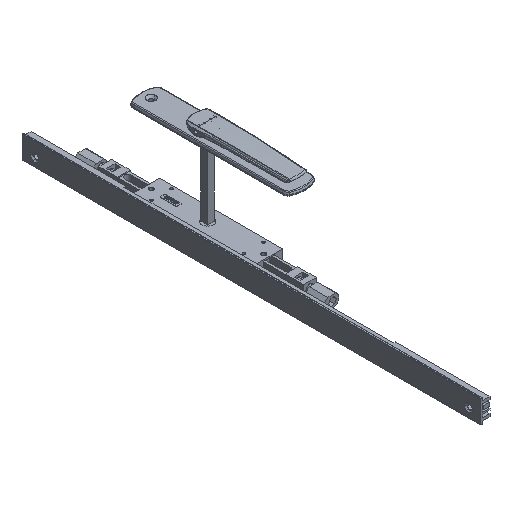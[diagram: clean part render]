
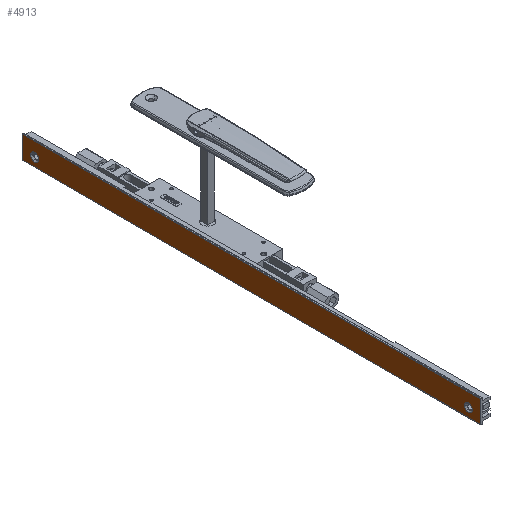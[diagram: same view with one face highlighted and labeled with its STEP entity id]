
A CAD part, isometric view. The second image highlights one B-rep face of the part: STEP entity #4913.
In plain terms, the highlighted planar face has unit normal (-1, 0, 0) as drawn and (0, 1, 0) by its records, which use the part's own axes.
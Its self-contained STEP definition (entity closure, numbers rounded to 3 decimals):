
#42 = VERTEX_POINT ( 'NONE', #28463 ) ;
#154 = DIRECTION ( 'NONE',  ( -1., 0., 0. ) ) ;
#907 = CARTESIAN_POINT ( 'NONE',  ( 11.8, 12.4, 529. ) ) ;
#1183 = ORIENTED_EDGE ( 'NONE', *, *, #7446, .T. ) ;
#1953 = DIRECTION ( 'NONE',  ( 0., 1., 0. ) ) ;
#2097 = CARTESIAN_POINT ( 'NONE',  ( 20.8, 12.4, 544. ) ) ;
#2159 = CARTESIAN_POINT ( 'NONE',  ( -4.4, 12.4, 0. ) ) ;
#2232 = ORIENTED_EDGE ( 'NONE', *, *, #12442, .F. ) ;
#4413 = VERTEX_POINT ( 'NONE', #25428 ) ;
#4913 = ADVANCED_FACE ( 'NONE', ( #30693, #26301, #9494 ), #19054, .F. ) ;
#5756 = DIRECTION ( 'NONE',  ( 0., 1., 0. ) ) ;
#6285 = DIRECTION ( 'NONE',  ( 0., 1., 0. ) ) ;
#6688 = DIRECTION ( 'NONE',  ( 0., 0., 1. ) ) ;
#6836 = EDGE_CURVE ( 'NONE', #17406, #42, #20732, .T. ) ;
#6898 = ORIENTED_EDGE ( 'NONE', *, *, #6836, .F. ) ;
#7446 = EDGE_CURVE ( 'NONE', #4413, #29605, #26039, .T. ) ;
#9479 = CIRCLE ( 'NONE', #27004, 4.889 ) ;
#9494 = FACE_OUTER_BOUND ( 'NONE', #29536, .T. ) ;
#10035 = VECTOR ( 'NONE', #29203, 1000. ) ;
#10246 = ORIENTED_EDGE ( 'NONE', *, *, #27383, .T. ) ;
#11005 = CARTESIAN_POINT ( 'NONE',  ( 22., 12.4, 544. ) ) ;
#11247 = CARTESIAN_POINT ( 'NONE',  ( 11.8, 12.4, 529. ) ) ;
#11557 = CIRCLE ( 'NONE', #14585, 4.89 ) ;
#11775 = DIRECTION ( 'NONE',  ( 0., 0., 1. ) ) ;
#11780 = AXIS2_PLACEMENT_3D ( 'NONE', #11247, #1953, #20792 ) ;
#11969 = ORIENTED_EDGE ( 'NONE', *, *, #19567, .F. ) ;
#12442 = EDGE_CURVE ( 'NONE', #27673, #16604, #16724, .T. ) ;
#12851 = CARTESIAN_POINT ( 'NONE',  ( 20.8, 12.4, 0. ) ) ;
#13371 = ORIENTED_EDGE ( 'NONE', *, *, #23821, .F. ) ;
#13752 = ORIENTED_EDGE ( 'NONE', *, *, #16573, .F. ) ;
#14135 = VECTOR ( 'NONE', #154, 1000. ) ;
#14433 = CARTESIAN_POINT ( 'NONE',  ( 11.8, 12.4, 15. ) ) ;
#14585 = AXIS2_PLACEMENT_3D ( 'NONE', #30922, #16778, #26370 ) ;
#15508 = EDGE_LOOP ( 'NONE', ( #11969, #6898 ) ) ;
#16573 = EDGE_CURVE ( 'NONE', #23276, #23169, #20764, .T. ) ;
#16604 = VERTEX_POINT ( 'NONE', #11005 ) ;
#16724 = LINE ( 'NONE', #28180, #24450 ) ;
#16778 = DIRECTION ( 'NONE',  ( 0., 1., 0. ) ) ;
#17406 = VERTEX_POINT ( 'NONE', #24707 ) ;
#18199 = DIRECTION ( 'NONE',  ( 0., 0., 1. ) ) ;
#18587 = CARTESIAN_POINT ( 'NONE',  ( 11.8, 12.4, 10.111 ) ) ;
#19054 = PLANE ( 'NONE',  #27809 ) ;
#19567 = EDGE_CURVE ( 'NONE', #42, #17406, #9479, .T. ) ;
#19618 = CARTESIAN_POINT ( 'NONE',  ( 20.8, 12.4, 544. ) ) ;
#19622 = CARTESIAN_POINT ( 'NONE',  ( 11.8, 12.4, 19.89 ) ) ;
#20732 = CIRCLE ( 'NONE', #11780, 4.889 ) ;
#20764 = CIRCLE ( 'NONE', #21536, 4.89 ) ;
#20792 = DIRECTION ( 'NONE',  ( 0., 0., 1. ) ) ;
#21100 = DIRECTION ( 'NONE',  ( 0., -1., 0. ) ) ;
#21536 = AXIS2_PLACEMENT_3D ( 'NONE', #14433, #6285, #18199 ) ;
#21947 = LINE ( 'NONE', #12851, #14135 ) ;
#23169 = VERTEX_POINT ( 'NONE', #18587 ) ;
#23276 = VERTEX_POINT ( 'NONE', #19622 ) ;
#23821 = EDGE_CURVE ( 'NONE', #16604, #29605, #26991, .T. ) ;
#24108 = EDGE_CURVE ( 'NONE', #23169, #23276, #11557, .T. ) ;
#24310 = VECTOR ( 'NONE', #11775, 1000. ) ;
#24450 = VECTOR ( 'NONE', #6688, 1000. ) ;
#24707 = CARTESIAN_POINT ( 'NONE',  ( 11.8, 12.4, 524.111 ) ) ;
#25072 = DIRECTION ( 'NONE',  ( 0., 0., 1. ) ) ;
#25428 = CARTESIAN_POINT ( 'NONE',  ( -4.4, 12.4, 0. ) ) ;
#25822 = DIRECTION ( 'NONE',  ( 1., 0., 0. ) ) ;
#26039 = LINE ( 'NONE', #2159, #24310 ) ;
#26301 = FACE_BOUND ( 'NONE', #15508, .T. ) ;
#26370 = DIRECTION ( 'NONE',  ( 0., 0., 1. ) ) ;
#26625 = ORIENTED_EDGE ( 'NONE', *, *, #24108, .F. ) ;
#26991 = LINE ( 'NONE', #19618, #10035 ) ;
#27004 = AXIS2_PLACEMENT_3D ( 'NONE', #907, #5756, #25072 ) ;
#27167 = EDGE_LOOP ( 'NONE', ( #13752, #26625 ) ) ;
#27383 = EDGE_CURVE ( 'NONE', #27673, #4413, #21947, .T. ) ;
#27673 = VERTEX_POINT ( 'NONE', #29948 ) ;
#27809 = AXIS2_PLACEMENT_3D ( 'NONE', #2097, #21100, #25822 ) ;
#28180 = CARTESIAN_POINT ( 'NONE',  ( 22., 12.4, 0. ) ) ;
#28463 = CARTESIAN_POINT ( 'NONE',  ( 11.8, 12.4, 533.889 ) ) ;
#29203 = DIRECTION ( 'NONE',  ( -1., 0., 0. ) ) ;
#29536 = EDGE_LOOP ( 'NONE', ( #10246, #1183, #13371, #2232 ) ) ;
#29605 = VERTEX_POINT ( 'NONE', #30427 ) ;
#29948 = CARTESIAN_POINT ( 'NONE',  ( 22., 12.4, 0. ) ) ;
#30427 = CARTESIAN_POINT ( 'NONE',  ( -4.4, 12.4, 544. ) ) ;
#30693 = FACE_BOUND ( 'NONE', #27167, .T. ) ;
#30922 = CARTESIAN_POINT ( 'NONE',  ( 11.8, 12.4, 15. ) ) ;
